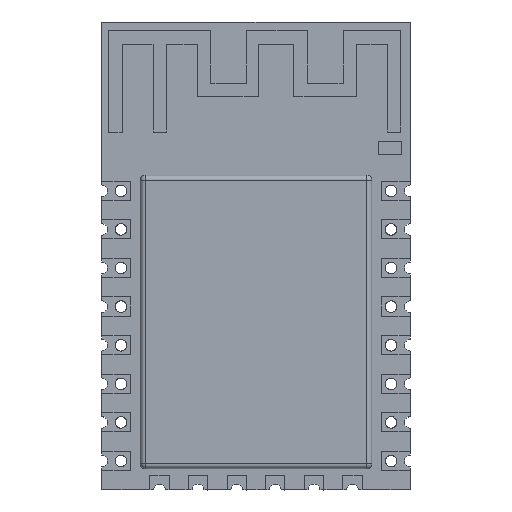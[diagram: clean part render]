
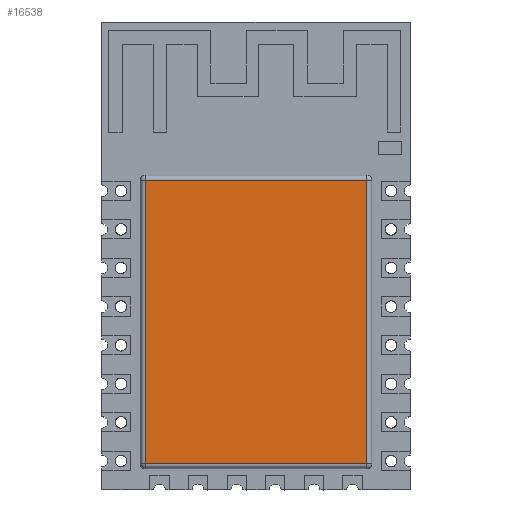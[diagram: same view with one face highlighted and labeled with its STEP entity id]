
A CAD part, top view. The second image highlights one B-rep face of the part: STEP entity #16538.
In plain terms, the highlighted planar face has unit normal (0, 0, 1).
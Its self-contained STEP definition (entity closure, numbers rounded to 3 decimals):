
#16254=CARTESIAN_POINT('Vertex',(13.75,-22.65,2.25)) ;
#16273=CARTESIAN_POINT('Line Origine',(8.,-22.65,2.25)) ;
#16277=CARTESIAN_POINT('Vertex',(2.25,-22.65,2.25)) ;
#16472=CARTESIAN_POINT('Line Origine',(2.25,-15.3,2.25)) ;
#16476=CARTESIAN_POINT('Vertex',(2.25,-7.95,2.25)) ;
#16515=CARTESIAN_POINT('Axis2P3D Location',(0.,0.,2.25)) ;
#16520=CARTESIAN_POINT('Line Origine',(13.75,-15.3,2.25)) ;
#16524=CARTESIAN_POINT('Vertex',(13.75,-7.95,2.25)) ;
#16527=CARTESIAN_POINT('Line Origine',(8.,-7.95,2.25)) ;
#16274=DIRECTION('Vector Direction',(1.,0.,0.)) ;
#16473=DIRECTION('Vector Direction',(0.,1.,0.)) ;
#16516=DIRECTION('Axis2P3D Direction',(-0.,0.,1.)) ;
#16517=DIRECTION('Axis2P3D XDirection',(1.,0.,0.)) ;
#16521=DIRECTION('Vector Direction',(0.,1.,0.)) ;
#16528=DIRECTION('Vector Direction',(1.,0.,0.)) ;
#16518=AXIS2_PLACEMENT_3D('Plane Axis2P3D',#16515,#16516,#16517) ;
#16533=ORIENTED_EDGE('',*,*,#16478,.F.) ;
#16534=ORIENTED_EDGE('',*,*,#16279,.F.) ;
#16535=ORIENTED_EDGE('',*,*,#16526,.F.) ;
#16536=ORIENTED_EDGE('',*,*,#16531,.T.) ;
#16275=VECTOR('Line Direction',#16274,1.) ;
#16474=VECTOR('Line Direction',#16473,1.) ;
#16522=VECTOR('Line Direction',#16521,1.) ;
#16529=VECTOR('Line Direction',#16528,1.) ;
#16538=ADVANCED_FACE('Body.43',(#16537),#16519,.T.) ;
#16279=EDGE_CURVE('',#16255,#16278,#16276,.F.) ;
#16478=EDGE_CURVE('',#16278,#16477,#16475,.T.) ;
#16526=EDGE_CURVE('',#16525,#16255,#16523,.F.) ;
#16531=EDGE_CURVE('',#16525,#16477,#16530,.F.) ;
#16532=EDGE_LOOP('',(#16533,#16534,#16535,#16536)) ;
#16537=FACE_OUTER_BOUND('',#16532,.T.) ;
#16276=LINE('Line',#16273,#16275) ;
#16475=LINE('Line',#16472,#16474) ;
#16523=LINE('Line',#16520,#16522) ;
#16530=LINE('Line',#16527,#16529) ;
#16519=PLANE('Plane',#16518) ;
#16255=VERTEX_POINT('',#16254) ;
#16278=VERTEX_POINT('',#16277) ;
#16477=VERTEX_POINT('',#16476) ;
#16525=VERTEX_POINT('',#16524) ;
